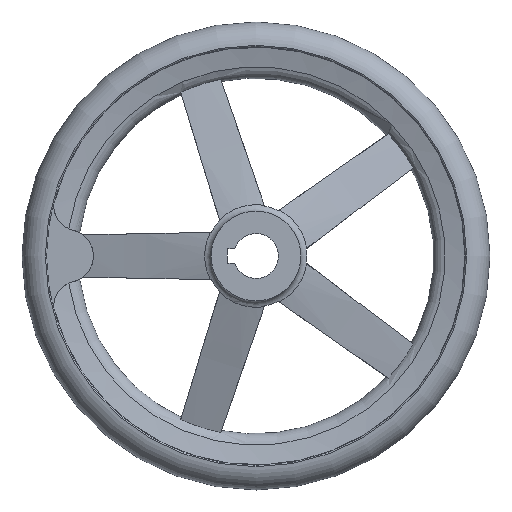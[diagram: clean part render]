
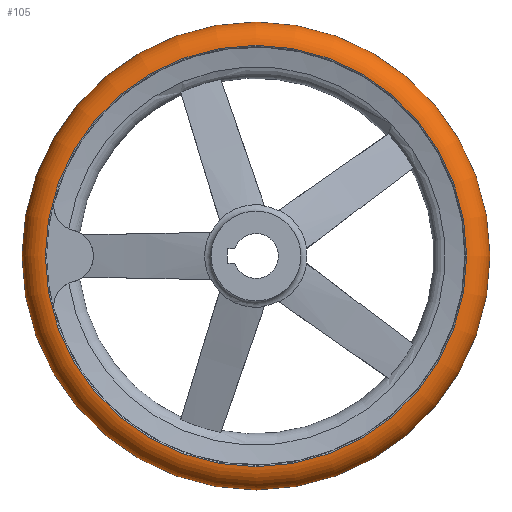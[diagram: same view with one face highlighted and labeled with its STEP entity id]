
A CAD part, left-side view. The second image highlights one B-rep face of the part: STEP entity #105.
In plain terms, the highlighted toroidal (fillet/blend) face has major radius 111.988 mm and minor radius 13.012 mm.
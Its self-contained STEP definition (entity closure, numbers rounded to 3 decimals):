
#105 = ADVANCED_FACE( '', ( #205, #206, #207 ), #208, .T. );
#205 = FACE_BOUND( '', #333, .T. );
#206 = FACE_OUTER_BOUND( '', #334, .T. );
#207 = FACE_OUTER_BOUND( '', #335, .T. );
#208 = TOROIDAL_SURFACE( '', #336, 111.988, 13.012 );
#333 = VERTEX_LOOP( '', #661 );
#334 = EDGE_LOOP( '', ( #662 ) );
#335 = EDGE_LOOP( '', ( #663 ) );
#336 = AXIS2_PLACEMENT_3D( '', #664, #665, #666 );
#661 = VERTEX_POINT( '', #966 );
#662 = ORIENTED_EDGE( '', *, *, #967, .T. );
#663 = ORIENTED_EDGE( '', *, *, #965, .F. );
#664 = CARTESIAN_POINT( '', ( 37., 0., 0. ) );
#665 = DIRECTION( '', ( -1., 0., 0. ) );
#666 = DIRECTION( '', ( 0., -1., 0. ) );
#965 = EDGE_CURVE( '', #1208, #1208, #1209, .T. );
#966 = CARTESIAN_POINT( '', ( 37., -125., 0. ) );
#967 = EDGE_CURVE( '', #1210, #1210, #1211, .T. );
#1208 = VERTEX_POINT( '', #2034 );
#1209 = CIRCLE( '', #2035, 112.542 );
#1210 = VERTEX_POINT( '', #2036 );
#1211 = CIRCLE( '', #2037, 112.542 );
#2034 = CARTESIAN_POINT( '', ( 24., -112.542, 0. ) );
#2035 = AXIS2_PLACEMENT_3D( '', #2274, #2275, #2276 );
#2036 = CARTESIAN_POINT( '', ( 50., -112.542, 0. ) );
#2037 = AXIS2_PLACEMENT_3D( '', #2277, #2278, #2279 );
#2274 = CARTESIAN_POINT( '', ( 24., 0., 0. ) );
#2275 = DIRECTION( '', ( -1., 0., 0. ) );
#2276 = DIRECTION( '', ( 0., -1., 0. ) );
#2277 = CARTESIAN_POINT( '', ( 50., 0., 0. ) );
#2278 = DIRECTION( '', ( -1., 0., 0. ) );
#2279 = DIRECTION( '', ( 0., -1., 0. ) );
